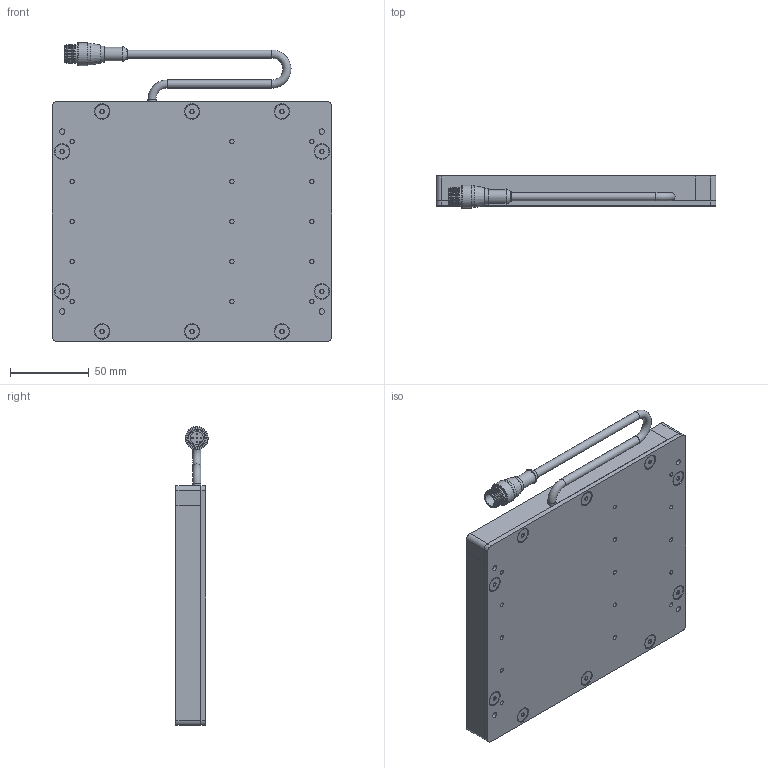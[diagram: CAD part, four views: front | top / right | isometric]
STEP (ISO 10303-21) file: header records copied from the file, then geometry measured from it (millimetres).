
FILE_DESCRIPTION (( 'STEP AP214' ), '1' );
FILE_NAME ('SBL56-XXX-WDC.STEP', '2026-04-17T19:10:14', ( '' ), ( '' ), 'SwSTEP 2.0', 'SolidWorks 2025', '' );
FILE_SCHEMA (( 'AUTOMOTIVE_DESIGN' ));
Length unit declared in the file: inch
Products named in the file (11): Hex Standoff .375 x 8-32; M12 Connector 4,5 and 8 pin_RS4.5T; MC Pigtail 24; 8-32 x 0.375 FHCS (92210A192)_92210A192; SBL3 to 18in rail_06in rail; SBL56-XXX-WDC; SC Pigtail Complete 18_5pin; SBL3 to 18in rail_05in rail; WD-SBLYYXX_5x6; BackPlate BLYYXX_0506; SBL3 to 18in rail_06in No CG
Assembly tree (29 placements, depth 3):
  SBL56-XXX-WDC
    BackPlate BLYYXX_0506
    SBL3 to 18in rail_06in rail
    SBL3 to 18in rail_06in No CG
    SBL3 to 18in rail_05in rail  x2
    SC Pigtail Complete 18_5pin
      MC Pigtail 24
      M12 Connector 4,5 and 8 pin_RS4.5T
    WD-SBLYYXX_5x6
    Hex Standoff .375 x 8-32  x10
    8-32 x 0.375 FHCS (92210A192)_92210A192  x10
Bounding box: 177.8 x 20.74 x 189.93 mm (x, y, z)
Volume: 267297.1 mm3; surface area: 163615.7 mm2
Topology: 28 solids, 28 shells, 747 faces, 1743 edges, 1073 vertices
Faces by surface type: plane 299, cylinder 221, cone 169, bspline 30, torus 23, sphere 5
Full cylindrical faces by diameter (mm): 0.762 x5, 2.705 x15, 3.454 x14, 4.496 x20, 5.207 x3, 6.604 x8, 6.858 x10, 8.382 x1, 8.636 x1, 9.119 x10, 10.16 x1, 10.541 x1, 11.938 x1, 13.716 x2, 14.732 x1
Entity records: 13627 total; most frequent: CARTESIAN_POINT 3727, DIRECTION 1851, ORIENTED_EDGE 1486, AXIS2_PLACEMENT_3D 760, EDGE_CURVE 743, EDGE_LOOP 577, VERTEX_POINT 548, FACE_OUTER_BOUND 432
